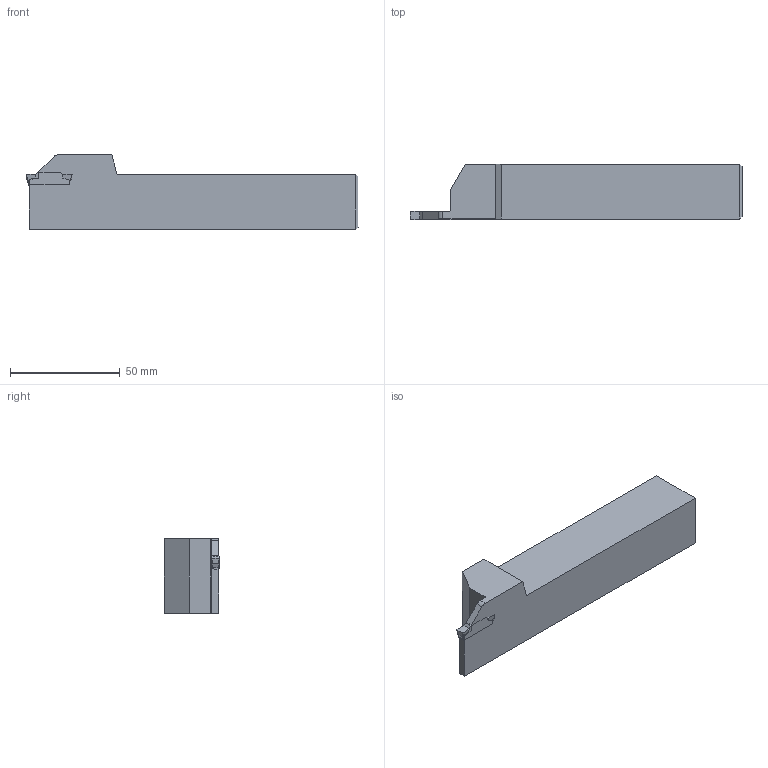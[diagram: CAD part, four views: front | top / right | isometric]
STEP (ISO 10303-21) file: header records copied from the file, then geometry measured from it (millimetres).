
FILE_DESCRIPTION(/* description */ (''),/* implementation_level */ '2;1');
FILE_NAME(/* name */ 'MGEHR2525-4-HAAS.stp',/* time_stamp */ '2021-10-14T10:30:20+09:00',/* author */ (''),/* organization */ (''),/* preprocessor_version */ 'ST-DEVELOPER v11',/* originating_system */ 'SIEMENS UGS NX 6.0',/* authorisation */ '');
FILE_SCHEMA (('CONFIG_CONTROL_DESIGN'));
Length unit declared in the file: millimetre
Products named in the file (1): user254Fxyiu
Bounding box: 151.25 x 25.4 x 34 mm (x, y, z)
Volume: 88482.3 mm3; surface area: 16480.2 mm2
Topology: 2 solids, 2 shells, 56 faces, 148 edges, 96 vertices
Faces by surface type: plane 43, cylinder 13
Entity records: 1814 total; most frequent: CARTESIAN_POINT 325, ORIENTED_EDGE 296, DIRECTION 284, EDGE_CURVE 148, LINE 118, VECTOR 118, VERTEX_POINT 96, AXIS2_PLACEMENT_3D 83
